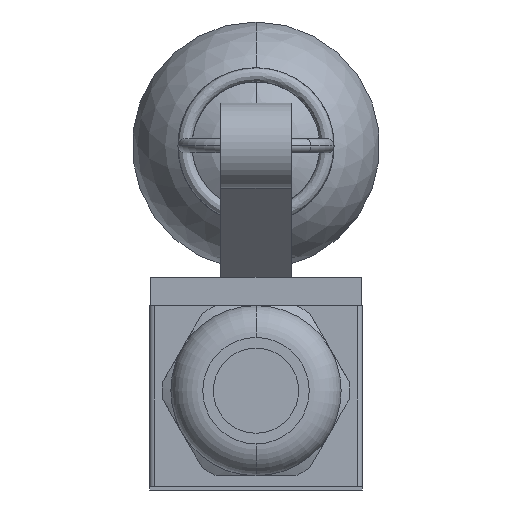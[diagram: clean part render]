
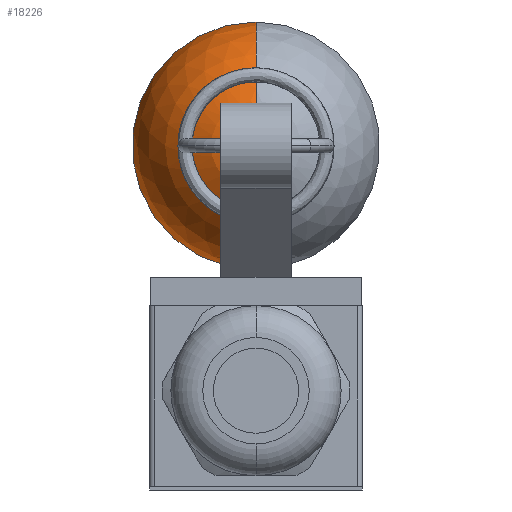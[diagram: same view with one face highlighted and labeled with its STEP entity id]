
A CAD part, front view. The second image highlights one B-rep face of the part: STEP entity #18226.
In plain terms, the highlighted spherical face has radius 17.5 mm.
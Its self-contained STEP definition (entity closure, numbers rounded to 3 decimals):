
#18045=CARTESIAN_POINT('',(0.,120.679,38.5));
#18046=DIRECTION('',(0.,1.,0.));
#18047=DIRECTION('',(0.,0.,-1.));
#18048=AXIS2_PLACEMENT_3D('',#18045,#18046,#18047);
#18091=CARTESIAN_POINT('',(0.,138.,38.5));
#18092=DIRECTION('',(-1.,0.,0.));
#18093=DIRECTION('',(0.,0.958,-0.286));
#18094=AXIS2_PLACEMENT_3D('',#18091,#18092,#18093);
#18096=CARTESIAN_POINT('',(0.,138.,38.5));
#18097=DIRECTION('',(1.,0.,0.));
#18098=DIRECTION('',(0.,0.958,0.286));
#18099=AXIS2_PLACEMENT_3D('',#18096,#18097,#18098);
#18106=CARTESIAN_POINT('',(0.,154.771,38.5));
#18107=DIRECTION('',(0.,1.,0.));
#18108=DIRECTION('',(0.,0.,-1.));
#18109=AXIS2_PLACEMENT_3D('',#18106,#18107,#18108);
#18111=CARTESIAN_POINT('',(0.,120.679,36.));
#18113=VERTEX_POINT('',#18111);
#18116=CARTESIAN_POINT('',(0.,154.771,33.5));
#18118=VERTEX_POINT('',#18116);
#18119=CARTESIAN_POINT('',(0.,120.679,41.));
#18121=VERTEX_POINT('',#18119);
#18124=CARTESIAN_POINT('',(0.,154.771,43.5));
#18126=VERTEX_POINT('',#18124);
#18215=CARTESIAN_POINT('',(0.,138.,38.5));
#18216=DIRECTION('',(0.,1.,0.));
#18217=DIRECTION('',(0.,0.,1.));
#18218=AXIS2_PLACEMENT_3D('',#18215,#18216,#18217);
#18219=SPHERICAL_SURFACE('',#18218,17.5);
#18220=ORIENTED_EDGE('',*,*,#18206,.F.);
#18221=ORIENTED_EDGE('',*,*,#18183,.T.);
#18222=ORIENTED_EDGE('',*,*,#18209,.T.);
#18223=ORIENTED_EDGE('',*,*,#18134,.F.);
#18224=EDGE_LOOP('',(#18220,#18221,#18222,#18223));
#18225=FACE_OUTER_BOUND('',#18224,.F.);
#18226=ADVANCED_FACE('',(#18225),#18219,.T.);
#18049=CIRCLE('',#18048,2.5);
#18095=CIRCLE('',#18094,17.5);
#18100=CIRCLE('',#18099,17.5);
#18110=CIRCLE('',#18109,5.);
#18134=EDGE_CURVE('',#18113,#18121,#18049,.T.);
#18183=EDGE_CURVE('',#18118,#18126,#18110,.T.);
#18206=EDGE_CURVE('',#18118,#18113,#18095,.T.);
#18209=EDGE_CURVE('',#18126,#18121,#18100,.T.);
